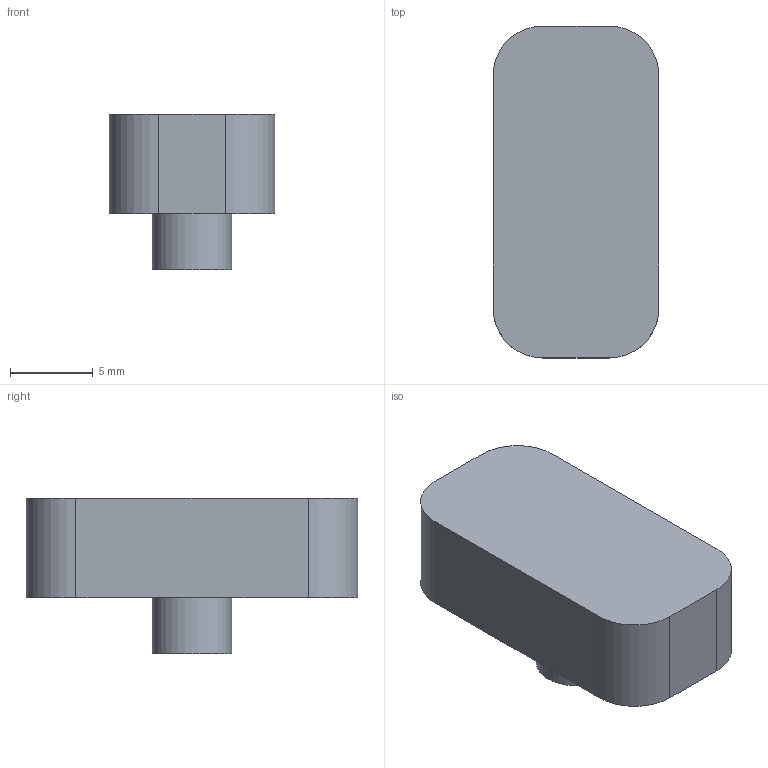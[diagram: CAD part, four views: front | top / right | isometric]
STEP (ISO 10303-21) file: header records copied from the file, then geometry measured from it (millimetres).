
FILE_DESCRIPTION(('Open CASCADE Model'),'2;1');
FILE_NAME('Open CASCADE Shape Model','2026-09-13T15:26:30',('Author'),( 'Open CASCADE'),'Open CASCADE STEP processor 7.9','build123d', 'Unknown');
FILE_SCHEMA(('AUTOMOTIVE_DESIGN { 1 0 10303 214 1 1 1 1 }'));
Length unit declared in the file: millimetre
Products named in the file (2): =>[0:1:1:2]; COMPOUND
Assembly tree (1 placements, depth 2):
  =>[0:1:1:2]
    COMPOUND
Bounding box: 10 x 20 x 9.4 mm (x, y, z)
Volume: 1215.2 mm3; surface area: 764.9 mm2
Topology: 1 solids, 1 shells, 12 faces, 30 edges, 21 vertices
Faces by surface type: plane 7, cylinder 5
Full cylindrical faces by diameter (mm): 4.8 x1
Entity records: 810 total; most frequent: CARTESIAN_POINT 173, DIRECTION 120, LINE 70, VECTOR 70, ORIENTED_EDGE 60, PCURVE 60, DEFINITIONAL_REPRESENTATION 60, EDGE_CURVE 30
